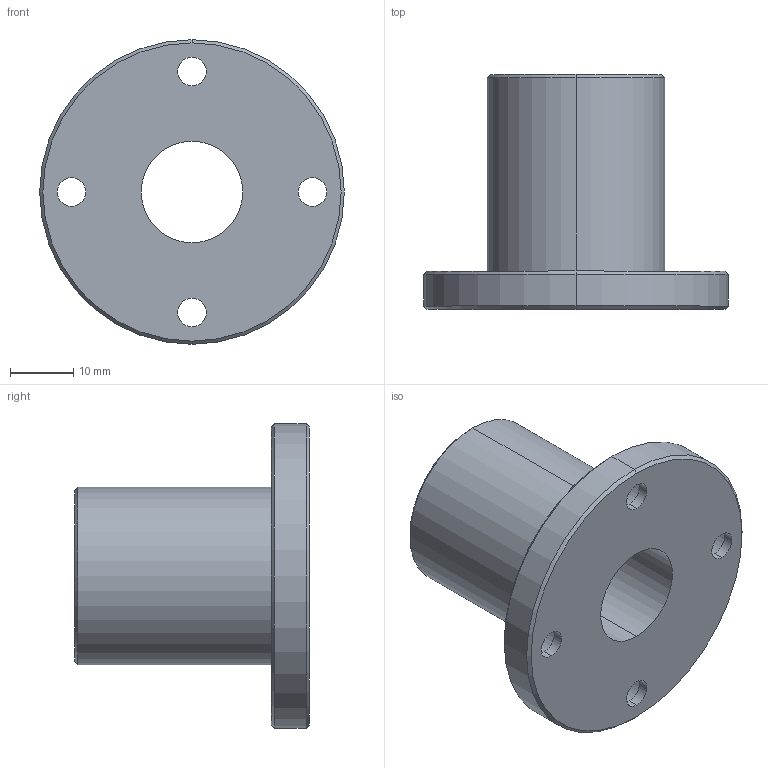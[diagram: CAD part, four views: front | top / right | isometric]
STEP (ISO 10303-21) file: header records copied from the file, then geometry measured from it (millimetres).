
FILE_DESCRIPTION (( 'STEP AP214' ), '1' );
FILE_NAME ('2.7035 Lineaarilaakeri LMF16UU.STEP', '2024-06-18T07:43:32', ( '' ), ( '' ), 'SwSTEP 2.0', 'SolidWorks 2024', '' );
FILE_SCHEMA (( 'AUTOMOTIVE_DESIGN' ));
Length unit declared in the file: millimetre
Products named in the file (1): 2.7035 Lineaarilaakeri LMF16UU
Bounding box: 48 x 37 x 48 mm (x, y, z)
Volume: 21471.6 mm3; surface area: 8999 mm2
Topology: 1 solids, 1 shells, 35 faces, 78 edges, 50 vertices
Faces by surface type: cylinder 22, plane 7, cone 6
Entity records: 1037 total; most frequent: DIRECTION 200, CARTESIAN_POINT 164, ORIENTED_EDGE 156, AXIS2_PLACEMENT_3D 86, EDGE_CURVE 78, EDGE_LOOP 50, CIRCLE 50, VERTEX_POINT 50
